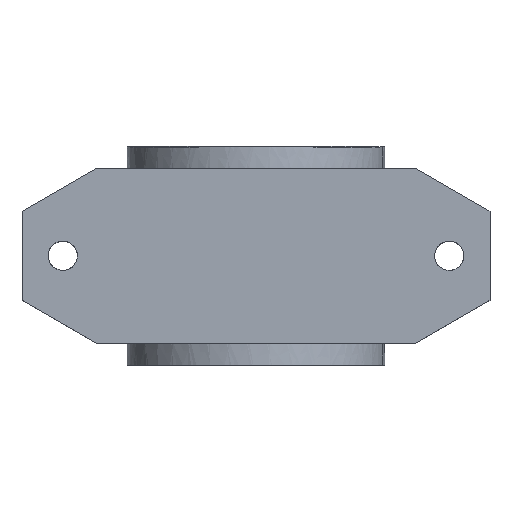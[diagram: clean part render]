
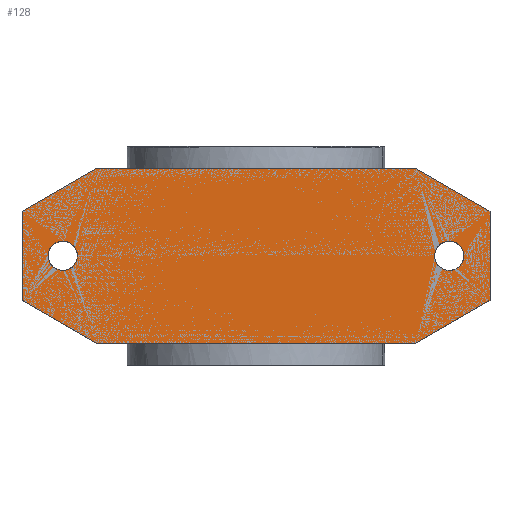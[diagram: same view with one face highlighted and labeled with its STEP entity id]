
A CAD part, top view. The second image highlights one B-rep face of the part: STEP entity #128.
In plain terms, the highlighted free-form (B-spline) face has degree [3, 1] with [4, 2] control points.
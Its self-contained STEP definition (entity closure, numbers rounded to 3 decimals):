
#128=ADVANCED_FACE('',(#308,#220,#221),#2816,.T.);
#220=FACE_BOUND('',#476,.T.);
#221=FACE_BOUND('',#477,.T.);
#308=FACE_OUTER_BOUND('',#475,.T.);
#475=EDGE_LOOP('',(#1004,#1005,#1006,#1007,#1008,#1009,#1010,#1011));
#476=EDGE_LOOP('',(#1012,#1013));
#477=EDGE_LOOP('',(#1014,#1015));
#1004=ORIENTED_EDGE('',*,*,#1715,.F.);
#1005=ORIENTED_EDGE('',*,*,#1700,.F.);
#1006=ORIENTED_EDGE('',*,*,#1699,.F.);
#1007=ORIENTED_EDGE('',*,*,#1698,.F.);
#1008=ORIENTED_EDGE('',*,*,#1714,.F.);
#1009=ORIENTED_EDGE('',*,*,#1703,.F.);
#1010=ORIENTED_EDGE('',*,*,#1702,.F.);
#1011=ORIENTED_EDGE('',*,*,#1701,.F.);
#1012=ORIENTED_EDGE('',*,*,#1727,.T.);
#1013=ORIENTED_EDGE('',*,*,#1734,.T.);
#1014=ORIENTED_EDGE('',*,*,#1729,.T.);
#1015=ORIENTED_EDGE('',*,*,#1736,.T.);
#1698=EDGE_CURVE('',#2561,#2563,#1957,.T.);
#1699=EDGE_CURVE('',#2563,#2564,#1958,.T.);
#1700=EDGE_CURVE('',#2564,#2565,#1959,.T.);
#1701=EDGE_CURVE('',#2566,#2567,#1960,.T.);
#1702=EDGE_CURVE('',#2567,#2568,#2197,.T.);
#1703=EDGE_CURVE('',#2568,#2562,#1961,.T.);
#1714=EDGE_CURVE('',#2562,#2561,#2203,.T.);
#1715=EDGE_CURVE('',#2565,#2566,#2204,.T.);
#1727=EDGE_CURVE('',#2580,#2583,#2212,.T.);
#1729=EDGE_CURVE('',#2581,#2585,#2214,.T.);
#1734=EDGE_CURVE('',#2583,#2580,#2219,.T.);
#1736=EDGE_CURVE('',#2585,#2581,#2221,.T.);
#1957=B_SPLINE_CURVE_WITH_KNOTS('',1,(#4238,#4239),.UNSPECIFIED.,.F.,.F.,
(2,2),(-131.864,-122.112),.UNSPECIFIED.);
#1958=B_SPLINE_CURVE_WITH_KNOTS('',1,(#4240,#4241),.UNSPECIFIED.,.F.,.F.,
(2,2),(-122.112,-85.822),.UNSPECIFIED.);
#1959=B_SPLINE_CURVE_WITH_KNOTS('',1,(#4242,#4243),.UNSPECIFIED.,.F.,.F.,
(2,2),(-85.822,-76.07),.UNSPECIFIED.);
#1960=B_SPLINE_CURVE_WITH_KNOTS('',1,(#4244,#4245),.UNSPECIFIED.,.F.,.F.,
(2,2),(-65.932,-56.18),.UNSPECIFIED.);
#1961=B_SPLINE_CURVE_WITH_KNOTS('',1,(#4250,#4251),.UNSPECIFIED.,.F.,.F.,
(2,2),(-19.89,-10.138),.UNSPECIFIED.);
#2197=(
BOUNDED_CURVE()
B_SPLINE_CURVE(3,(#4246,#4247,#4248,#4249),.UNSPECIFIED.,.F.,.F.)
B_SPLINE_CURVE_WITH_KNOTS((4,4),(-110.973,-74.683),
 .UNSPECIFIED.)
CURVE()
GEOMETRIC_REPRESENTATION_ITEM()
RATIONAL_B_SPLINE_CURVE((1.,1.,1.,1.))
REPRESENTATION_ITEM('')
);
#2203=(
BOUNDED_CURVE()
B_SPLINE_CURVE(1,(#4278,#4279),.UNSPECIFIED.,.F.,.F.)
B_SPLINE_CURVE_WITH_KNOTS((2,2),(4.92,15.058),
 .UNSPECIFIED.)
CURVE()
GEOMETRIC_REPRESENTATION_ITEM()
RATIONAL_B_SPLINE_CURVE((1.,1.))
REPRESENTATION_ITEM('')
);
#2204=(
BOUNDED_CURVE()
B_SPLINE_CURVE(1,(#4280,#4281),.UNSPECIFIED.,.F.,.F.)
B_SPLINE_CURVE_WITH_KNOTS((2,2),(-15.058,-4.92),
 .UNSPECIFIED.)
CURVE()
GEOMETRIC_REPRESENTATION_ITEM()
RATIONAL_B_SPLINE_CURVE((1.,1.))
REPRESENTATION_ITEM('')
);
#2212=(
BOUNDED_CURVE()
B_SPLINE_CURVE(2,(#4321,#4322,#4323,#4324,#4325),.UNSPECIFIED.,.F.,.F.)
B_SPLINE_CURVE_WITH_KNOTS((3,2,3),(-10.414,-7.811,
-5.207),.UNSPECIFIED.)
CURVE()
GEOMETRIC_REPRESENTATION_ITEM()
RATIONAL_B_SPLINE_CURVE((1.,0.707,1.,0.707,1.))
REPRESENTATION_ITEM('')
);
#2214=(
BOUNDED_CURVE()
B_SPLINE_CURVE(2,(#4328,#4329,#4330,#4331,#4332),.UNSPECIFIED.,.F.,.F.)
B_SPLINE_CURVE_WITH_KNOTS((3,2,3),(-10.414,-7.811,-5.207),
 .UNSPECIFIED.)
CURVE()
GEOMETRIC_REPRESENTATION_ITEM()
RATIONAL_B_SPLINE_CURVE((1.,0.707,1.,0.707,1.))
REPRESENTATION_ITEM('')
);
#2219=(
BOUNDED_CURVE()
B_SPLINE_CURVE(2,(#4347,#4348,#4349,#4350,#4351),.UNSPECIFIED.,.F.,.F.)
B_SPLINE_CURVE_WITH_KNOTS((3,2,3),(-5.207,-2.604,
0.),.UNSPECIFIED.)
CURVE()
GEOMETRIC_REPRESENTATION_ITEM()
RATIONAL_B_SPLINE_CURVE((1.,0.707,1.,0.707,1.))
REPRESENTATION_ITEM('')
);
#2221=(
BOUNDED_CURVE()
B_SPLINE_CURVE(2,(#4354,#4355,#4356,#4357,#4358),.UNSPECIFIED.,.F.,.F.)
B_SPLINE_CURVE_WITH_KNOTS((3,2,3),(-5.207,-2.604,
0.),.UNSPECIFIED.)
CURVE()
GEOMETRIC_REPRESENTATION_ITEM()
RATIONAL_B_SPLINE_CURVE((1.,0.707,1.,0.707,1.))
REPRESENTATION_ITEM('')
);
#2561=VERTEX_POINT('',#3626);
#2562=VERTEX_POINT('',#3627);
#2563=VERTEX_POINT('',#3628);
#2564=VERTEX_POINT('',#3629);
#2565=VERTEX_POINT('',#3630);
#2566=VERTEX_POINT('',#3631);
#2567=VERTEX_POINT('',#3632);
#2568=VERTEX_POINT('',#3633);
#2580=VERTEX_POINT('',#3645);
#2581=VERTEX_POINT('',#3646);
#2583=VERTEX_POINT('',#3648);
#2585=VERTEX_POINT('',#3650);
#2816=(
BOUNDED_SURFACE()
B_SPLINE_SURFACE(3,1,((#3414,#3415),(#3416,#3417),(#3418,#3419),(#3420,
#3421)),.UNSPECIFIED.,.F.,.F.,.F.)
B_SPLINE_SURFACE_WITH_KNOTS((4,4),(2,2),(66.238,119.419),
(0.,20.),.UNSPECIFIED.)
GEOMETRIC_REPRESENTATION_ITEM()
RATIONAL_B_SPLINE_SURFACE(((1.,1.),(1.,1.),(1.,1.),(1.,1.)))
REPRESENTATION_ITEM('')
SURFACE()
);
#3414=CARTESIAN_POINT('',(-31.614,-13.158,42.187));
#3415=CARTESIAN_POINT('',(-31.614,6.842,42.187));
#3416=CARTESIAN_POINT('',(-13.887,-13.158,42.187));
#3417=CARTESIAN_POINT('',(-13.887,6.842,42.187));
#3418=CARTESIAN_POINT('',(3.84,-13.158,42.187));
#3419=CARTESIAN_POINT('',(3.84,6.842,42.187));
#3420=CARTESIAN_POINT('',(21.567,-13.158,42.187));
#3421=CARTESIAN_POINT('',(21.567,6.842,42.187));
#3626=CARTESIAN_POINT('',(-31.614,1.9,42.187));
#3627=CARTESIAN_POINT('',(-31.614,-8.238,42.187));
#3628=CARTESIAN_POINT('',(-23.169,6.776,42.187));
#3629=CARTESIAN_POINT('',(13.121,6.776,42.187));
#3630=CARTESIAN_POINT('',(21.567,1.9,42.187));
#3631=CARTESIAN_POINT('',(21.567,-8.238,42.187));
#3632=CARTESIAN_POINT('',(13.121,-13.114,42.187));
#3633=CARTESIAN_POINT('',(-23.169,-13.114,42.187));
#3645=CARTESIAN_POINT('',(-26.985,-4.827,42.187));
#3646=CARTESIAN_POINT('',(16.937,-4.827,42.187));
#3648=CARTESIAN_POINT('',(-26.985,-1.512,42.187));
#3650=CARTESIAN_POINT('',(16.937,-1.512,42.187));
#4238=CARTESIAN_POINT('',(-31.614,1.9,42.187));
#4239=CARTESIAN_POINT('',(-23.169,6.776,42.187));
#4240=CARTESIAN_POINT('',(-23.169,6.776,42.187));
#4241=CARTESIAN_POINT('',(13.121,6.776,42.187));
#4242=CARTESIAN_POINT('',(13.121,6.776,42.187));
#4243=CARTESIAN_POINT('',(21.567,1.9,42.187));
#4244=CARTESIAN_POINT('',(21.567,-8.238,42.187));
#4245=CARTESIAN_POINT('',(13.121,-13.114,42.187));
#4246=CARTESIAN_POINT('',(13.121,-13.114,42.187));
#4247=CARTESIAN_POINT('',(1.025,-13.114,42.187));
#4248=CARTESIAN_POINT('',(-11.072,-13.114,42.187));
#4249=CARTESIAN_POINT('',(-23.169,-13.114,42.187));
#4250=CARTESIAN_POINT('',(-23.169,-13.114,42.187));
#4251=CARTESIAN_POINT('',(-31.614,-8.238,42.187));
#4278=CARTESIAN_POINT('',(-31.614,-8.238,42.187));
#4279=CARTESIAN_POINT('',(-31.614,1.9,42.187));
#4280=CARTESIAN_POINT('',(21.567,1.9,42.187));
#4281=CARTESIAN_POINT('',(21.567,-8.238,42.187));
#4321=CARTESIAN_POINT('',(-26.985,-4.827,42.187));
#4322=CARTESIAN_POINT('',(-28.642,-4.827,42.187));
#4323=CARTESIAN_POINT('',(-28.642,-3.169,42.187));
#4324=CARTESIAN_POINT('',(-28.642,-1.512,42.187));
#4325=CARTESIAN_POINT('',(-26.985,-1.512,42.187));
#4328=CARTESIAN_POINT('',(16.937,-4.827,42.187));
#4329=CARTESIAN_POINT('',(15.28,-4.827,42.187));
#4330=CARTESIAN_POINT('',(15.28,-3.169,42.187));
#4331=CARTESIAN_POINT('',(15.28,-1.512,42.187));
#4332=CARTESIAN_POINT('',(16.937,-1.512,42.187));
#4347=CARTESIAN_POINT('',(-26.985,-1.512,42.187));
#4348=CARTESIAN_POINT('',(-25.327,-1.512,42.187));
#4349=CARTESIAN_POINT('',(-25.327,-3.169,42.187));
#4350=CARTESIAN_POINT('',(-25.327,-4.827,42.187));
#4351=CARTESIAN_POINT('',(-26.985,-4.827,42.187));
#4354=CARTESIAN_POINT('',(16.937,-1.512,42.187));
#4355=CARTESIAN_POINT('',(18.595,-1.512,42.187));
#4356=CARTESIAN_POINT('',(18.595,-3.169,42.187));
#4357=CARTESIAN_POINT('',(18.595,-4.827,42.187));
#4358=CARTESIAN_POINT('',(16.937,-4.827,42.187));
